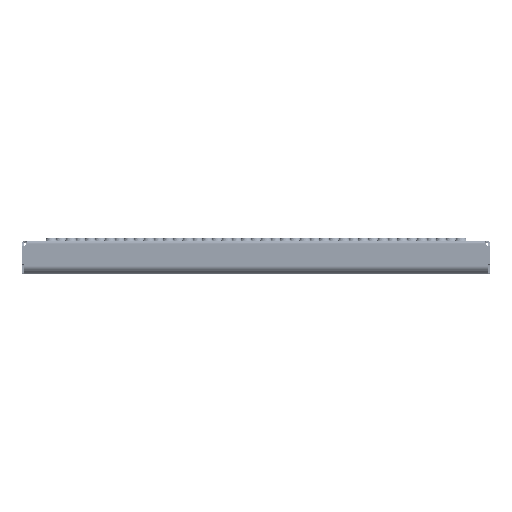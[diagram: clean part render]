
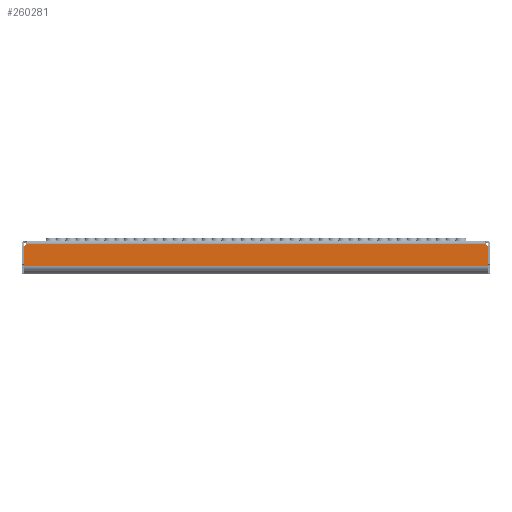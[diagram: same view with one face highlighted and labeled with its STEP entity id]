
A CAD part, top view. The second image highlights one B-rep face of the part: STEP entity #260281.
In plain terms, the highlighted planar face has unit normal (0, 0, 1).
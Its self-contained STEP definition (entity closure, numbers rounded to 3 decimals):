
#5935 = VERTEX_POINT ( 'NONE', #83316 ) ;
#7381 = CARTESIAN_POINT ( 'NONE',  ( 297.99, -7.185, 125. ) ) ;
#13059 = DIRECTION ( 'NONE',  ( 0., -1., 0. ) ) ;
#15976 = CIRCLE ( 'NONE', #49864, 5. ) ;
#16117 = CARTESIAN_POINT ( 'NONE',  ( -299., -4., 125. ) ) ;
#20996 = ORIENTED_EDGE ( 'NONE', *, *, #194958, .T. ) ;
#24926 = VECTOR ( 'NONE', #183495, 1000. ) ;
#27316 = VECTOR ( 'NONE', #257605, 1000. ) ;
#29311 = EDGE_CURVE ( 'NONE', #114330, #5935, #198169, .T. ) ;
#31529 = CARTESIAN_POINT ( 'NONE',  ( -297.99, -7.185, 125. ) ) ;
#33052 = VECTOR ( 'NONE', #88376, 1000. ) ;
#34485 = VERTEX_POINT ( 'NONE', #255313 ) ;
#39039 = ORIENTED_EDGE ( 'NONE', *, *, #158001, .T. ) ;
#49864 = AXIS2_PLACEMENT_3D ( 'NONE', #218335, #100113, #181229 ) ;
#51441 = CARTESIAN_POINT ( 'NONE',  ( -299., 245.712, 125. ) ) ;
#52770 = DIRECTION ( 'NONE',  ( 0., 0., 1. ) ) ;
#74732 = ORIENTED_EDGE ( 'NONE', *, *, #120949, .T. ) ;
#75481 = CARTESIAN_POINT ( 'NONE',  ( -297.99, -7.185, 125. ) ) ;
#76574 = EDGE_CURVE ( 'NONE', #34485, #78064, #224610, .T. ) ;
#77493 = ORIENTED_EDGE ( 'NONE', *, *, #76574, .T. ) ;
#78064 = VERTEX_POINT ( 'NONE', #75481 ) ;
#83316 = CARTESIAN_POINT ( 'NONE',  ( 297.99, -31.998, 125. ) ) ;
#88376 = DIRECTION ( 'NONE',  ( 0., 1., 0. ) ) ;
#95235 = FACE_OUTER_BOUND ( 'NONE', #101479, .T. ) ;
#95414 = CARTESIAN_POINT ( 'NONE',  ( -299., -2.288, 125. ) ) ;
#97076 = CARTESIAN_POINT ( 'NONE',  ( -297.99, -31.998, 125. ) ) ;
#100113 = DIRECTION ( 'NONE',  ( 0., 0., -1. ) ) ;
#101479 = EDGE_LOOP ( 'NONE', ( #202073, #39039, #74732, #170466, #77493, #20996 ) ) ;
#105346 = EDGE_CURVE ( 'NONE', #34485, #149574, #138354, .T. ) ;
#105724 = AXIS2_PLACEMENT_3D ( 'NONE', #51441, #52770, #237201 ) ;
#111199 = LINE ( 'NONE', #31529, #233728 ) ;
#112514 = PLANE ( 'NONE',  #105724 ) ;
#114330 = VERTEX_POINT ( 'NONE', #141961 ) ;
#120949 = EDGE_CURVE ( 'NONE', #122676, #149574, #15976, .T. ) ;
#122676 = VERTEX_POINT ( 'NONE', #172311 ) ;
#138354 = LINE ( 'NONE', #16117, #24926 ) ;
#141961 = CARTESIAN_POINT ( 'NONE',  ( -297.99, -31.998, 125. ) ) ;
#149574 = VERTEX_POINT ( 'NONE', #200654 ) ;
#158001 = EDGE_CURVE ( 'NONE', #5935, #122676, #189427, .T. ) ;
#170466 = ORIENTED_EDGE ( 'NONE', *, *, #105346, .F. ) ;
#172311 = CARTESIAN_POINT ( 'NONE',  ( 297.99, -7.185, 125. ) ) ;
#173865 = AXIS2_PLACEMENT_3D ( 'NONE', #95414, #176531, #13059 ) ;
#174977 = DIRECTION ( 'NONE',  ( 0., -1., 0. ) ) ;
#176531 = DIRECTION ( 'NONE',  ( 0., 0., -1. ) ) ;
#181229 = DIRECTION ( 'NONE',  ( 0., -1., 0. ) ) ;
#183495 = DIRECTION ( 'NONE',  ( 1., 0., 0. ) ) ;
#189427 = LINE ( 'NONE', #7381, #33052 ) ;
#194958 = EDGE_CURVE ( 'NONE', #78064, #114330, #111199, .T. ) ;
#198169 = LINE ( 'NONE', #97076, #27316 ) ;
#200654 = CARTESIAN_POINT ( 'NONE',  ( 294.302, -4., 125. ) ) ;
#202073 = ORIENTED_EDGE ( 'NONE', *, *, #29311, .T. ) ;
#218335 = CARTESIAN_POINT ( 'NONE',  ( 299., -2.288, 125. ) ) ;
#224610 = CIRCLE ( 'NONE', #173865, 5. ) ;
#233728 = VECTOR ( 'NONE', #174977, 1000. ) ;
#237201 = DIRECTION ( 'NONE',  ( 0., -1., 0. ) ) ;
#255313 = CARTESIAN_POINT ( 'NONE',  ( -294.302, -4., 125. ) ) ;
#257605 = DIRECTION ( 'NONE',  ( 1., 0., 0. ) ) ;
#260281 = ADVANCED_FACE ( 'NONE', ( #95235 ), #112514, .T. ) ;
